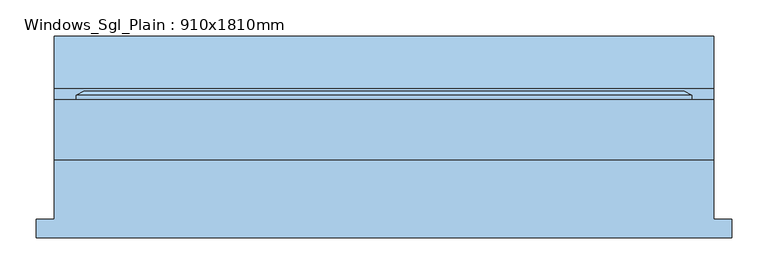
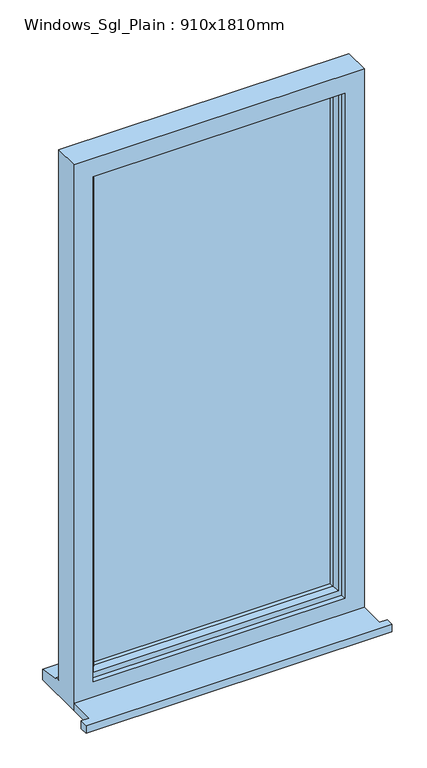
"""IFC4 building model written with IfcOpenShell, lengths in millimetres: window geometry, Windows_Sgl_Plain : 910x1810mm."""

from ifc_helpers import new_model, si_unit, frame, origin, place, context, project, spatial, polyline, outline, extrude, faceted_brep, source, transform, mapped, element, save


def windows_sgl_plain_910x1810mm_2ed797d2(model_context):
    return source(origin(), model_context, "Body", "SolidModel", [
        extrude(outline(polyline([(-480.0, -124.0434322), (-480.0, -99.0434322), (-455.0, -99.0434322), (-455.0, -17.0434322), (455.0, -17.0434322), (455.0, -99.0434322), (480.0, -99.0434322), (480.0, -124.0434322), (-480.0, -124.0434322)])), frame((0.0, 0.0, 300.0), z_axis=(0.0, 0.0, 1.0), x_axis=(1.0, 0.0, 0.0)), (0.0, 0.0, 1.0), 25.0),
        faceted_brep([(-455.0, -17.0434322, 300.0), (455.0, -17.0434322, 300.0), (455.0, -17.0434322, 2110.0), (-455.0, -17.0434322, 2110.0), (-395.0, -17.0434322, 2050.0), (395.0, -17.0434322, 2050.0), (395.0, -17.0434322, 375.0), (-395.0, -17.0434322, 375.0), (-455.0, 65.9565678, 2110.0), (-455.0, 65.9565678, 351.0), (-455.0, 80.9565678, 349.68767), (-455.0, 80.9565678, 344.7449676), (-455.0, 153.4565678, 333.8088847), (-455.0, 153.4565678, 300.0), (455.0, 65.9565678, 2110.0), (455.0, 65.9565678, 351.0), (-415.0, 65.9565678, 2070.0), (-415.0, 65.9565678, 363.0), (415.0, 65.9565678, 363.0), (415.0, 65.9565678, 2070.0), (-415.0, 0.9565678, 2070.0), (-415.0, 0.9565678, 363.0), (415.0, 0.9565678, 2070.0), (415.0, 0.9565678, 363.0), (-395.0, 0.9565678, 2050.0), (-395.0, 0.9565678, 375.0), (395.0, 0.9565678, 375.0), (395.0, 0.9565678, 2050.0), (455.0, 153.4565678, 300.0), (455.0, 153.4565678, 333.8088847), (455.0, 80.9565678, 344.7449676), (455.0, 80.9565678, 349.68767)], [[[0, 1, 2, 3], [4, 5, 6, 7]], [[0, 3, 8, 9, 10, 11, 12, 13]], [[9, 8, 14, 15], [16, 17, 18, 19]], [[17, 16, 20, 21]], [[20, 22, 23, 21], [24, 25, 26, 27]], [[24, 4, 7, 25]], [[3, 2, 14, 8]], [[16, 19, 22, 20]], [[5, 4, 24, 27]], [[15, 14, 2, 1, 28, 29, 30, 31]], [[19, 18, 23, 22]], [[5, 27, 26, 6]], [[28, 1, 0, 13]], [[29, 28, 13, 12]], [[30, 29, 12, 11]], [[31, 30, 11, 10]], [[15, 31, 10, 9]], [[21, 23, 18, 17]], [[7, 6, 26, 25]]]),
        extrude(outline(polyline([(385.0, 29.9565678), (-385.0, 29.9565678), (-385.0, 53.9565678), (385.0, 53.9565678), (385.0, 29.9565678)])), frame((0.0, 0.0, 393.0), z_axis=(0.0, 0.0, 1.0), x_axis=(1.0, 0.0, 0.0)), (0.0, 0.0, 1.0), 1647.0),
        faceted_brep([(-425.0, 65.9565678, 2080.0), (-425.0, 71.7300705, 2080.0), (-425.0, 71.7300705, 353.0), (-425.0, 65.9565678, 353.0), (-415.0, 0.9565678, 2070.0), (-415.0, 65.9565678, 2070.0), (-415.0, 65.9565678, 363.0), (-415.0, 0.9565678, 363.0), (-375.0, 15.4494677, 2030.0), (-385.1480377, 0.9565678, 2040.1480377), (-385.1480377, 0.9565678, 392.8519623), (-375.0, 15.4494677, 403.0), (-375.0, 29.9565678, 2030.0), (-375.0, 29.9565678, 403.0), (-385.0, 53.9565678, 2040.0), (-385.0, 29.9565678, 2040.0), (-385.0, 29.9565678, 393.0), (-385.0, 53.9565678, 393.0), (-375.0, 71.7300705, 2030.0), (-375.0, 53.9565678, 2030.0), (-375.0, 53.9565678, 403.0), (-375.0, 71.7300705, 403.0), (-392.4457548, 77.5035732, 2047.4457548), (-392.4457548, 77.5035732, 385.5542452), (-414.2153903, 77.5035732, 2069.2153903), (-414.2153903, 77.5035732, 363.7846097), (425.0, 71.7300705, 353.0), (425.0, 65.9565678, 353.0), (415.0, 65.9565678, 363.0), (415.0, 0.9565678, 363.0), (385.1480377, 0.9565678, 392.8519623), (375.0, 15.4494677, 403.0), (375.0, 29.9565678, 403.0), (385.0, 29.9565678, 393.0), (385.0, 53.9565678, 393.0), (375.0, 53.9565678, 403.0), (375.0, 71.7300705, 403.0), (392.4457548, 77.5035732, 385.5542452), (414.2153903, 77.5035732, 363.7846097), (425.0, 71.7300705, 2080.0), (425.0, 65.9565678, 2080.0), (415.0, 65.9565678, 2070.0), (415.0, 0.9565678, 2070.0), (385.1480377, 0.9565678, 2040.1480377), (375.0, 15.4494677, 2030.0), (375.0, 29.9565678, 2030.0), (385.0, 29.9565678, 2040.0), (385.0, 53.9565678, 2040.0), (375.0, 53.9565678, 2030.0), (375.0, 71.7300705, 2030.0), (392.4457548, 77.5035732, 2047.4457548), (414.2153903, 77.5035732, 2069.2153903)], [[[0, 1, 2, 3]], [[4, 5, 6, 7]], [[8, 9, 10, 11]], [[12, 8, 11, 13]], [[14, 15, 16, 17]], [[18, 19, 20, 21]], [[22, 18, 21, 23]], [[1, 24, 25, 2]], [[3, 2, 26, 27]], [[7, 6, 28, 29]], [[11, 10, 30, 31]], [[13, 11, 31, 32]], [[17, 16, 33, 34]], [[21, 20, 35, 36]], [[23, 21, 36, 37]], [[2, 25, 38, 26]], [[27, 26, 39, 40]], [[29, 28, 41, 42]], [[31, 30, 43, 44]], [[32, 31, 44, 45]], [[34, 33, 46, 47]], [[36, 35, 48, 49]], [[37, 36, 49, 50]], [[26, 38, 51, 39]], [[40, 39, 1, 0]], [[3, 27, 40, 0], [5, 41, 28, 6]], [[42, 41, 5, 4]], [[7, 29, 42, 4], [9, 43, 30, 10]], [[44, 43, 9, 8]], [[45, 44, 8, 12]], [[15, 46, 33, 16], [13, 32, 45, 12]], [[47, 46, 15, 14]], [[17, 34, 47, 14], [19, 48, 35, 20]], [[49, 48, 19, 18]], [[50, 49, 18, 22]], [[24, 51, 38, 25], [23, 37, 50, 22]], [[39, 51, 24, 1]]]),
    ])


if __name__ == "__main__":
    model = new_model("IFC4")
    model_context = context("Model", 3, world=origin())
    ifc_project = project(units=[si_unit("LENGTHUNIT", "METRE", prefix="MILLI")], contexts=[model_context])
    site = spatial("IfcSite", under=ifc_project)
    building = spatial("IfcBuilding", under=site)
    placement = place(None, origin())
    windows_sgl_plain_910x1810mm_shape = windows_sgl_plain_910x1810mm_2ed797d2(model_context)
    element("IfcWindow", 1, ObjectType="Windows_Sgl_Plain : 910x1810mm", at=placement, inside=building, context=model_context, shape_type="MappedRepresentation", body=[
        mapped(windows_sgl_plain_910x1810mm_shape, transform((0.0, 0.0, 0.0), x_axis=(1.0, 0.0, 0.0), y_axis=(0.0, 1.0, 0.0), z_axis=(0.0, 0.0, 1.0))),
    ])
    save(model, "model.ifc")
